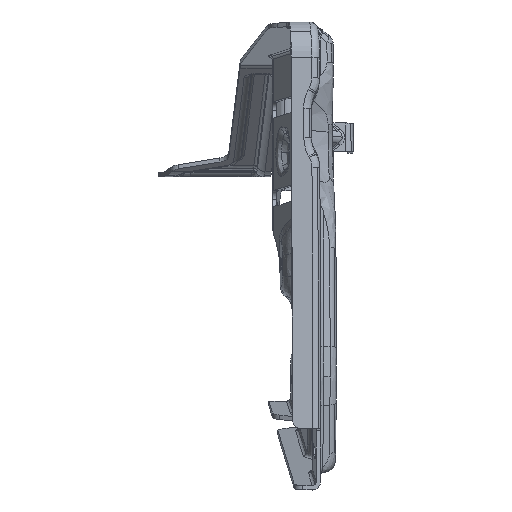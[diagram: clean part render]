
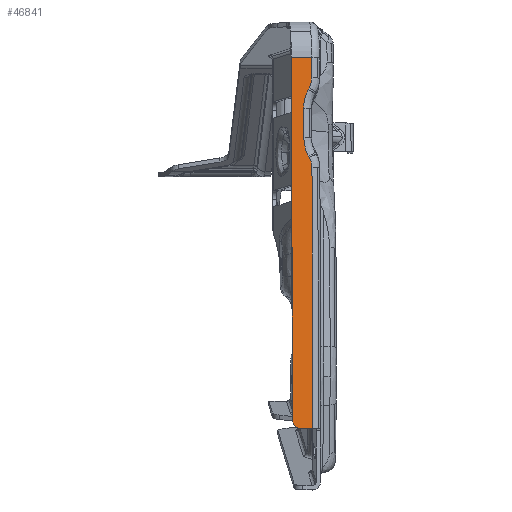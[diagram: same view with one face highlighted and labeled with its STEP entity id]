
A CAD part, top view. The second image highlights one B-rep face of the part: STEP entity #46841.
In plain terms, the highlighted planar face has unit normal (0.056, 0.07, 0.996).
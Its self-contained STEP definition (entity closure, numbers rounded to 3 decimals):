
#46737=AXIS2_PLACEMENT_3D('Plane Axis2P3D',#46734,#46735,#46736) ;
#43182=CARTESIAN_POINT('Vertex',(1606.133,709.849,1192.85)) ;
#43185=CARTESIAN_POINT('Line Origine',(1605.872,776.88,1188.17)) ;
#43189=CARTESIAN_POINT('Vertex',(1605.611,843.91,1183.49)) ;
#46716=CARTESIAN_POINT('Vertex',(1609.14,706.76,1192.899)) ;
#46720=CARTESIAN_POINT('Control Point',(1606.133,709.849,1192.85)) ;
#46721=CARTESIAN_POINT('Control Point',(1606.136,708.894,1192.917)) ;
#46722=CARTESIAN_POINT('Control Point',(1606.496,707.94,1192.964)) ;
#46723=CARTESIAN_POINT('Control Point',(1607.224,707.154,1192.978)) ;
#46724=CARTESIAN_POINT('Control Point',(1608.184,706.76,1192.952)) ;
#46725=CARTESIAN_POINT('Control Point',(1609.14,706.76,1192.899)) ;
#46734=CARTESIAN_POINT('Axis2P3D Location',(1616.539,857.876,1181.902)) ;
#46739=CARTESIAN_POINT('Line Origine',(1613.445,754.955,1189.283)) ;
#46743=CARTESIAN_POINT('Vertex',(1613.258,803.15,1185.918)) ;
#46745=CARTESIAN_POINT('Vertex',(1613.633,706.76,1192.648)) ;
#46749=CARTESIAN_POINT('Control Point',(1612.307,806.866,1185.711)) ;
#46750=CARTESIAN_POINT('Control Point',(1612.679,806.185,1185.738)) ;
#46751=CARTESIAN_POINT('Control Point',(1612.964,805.458,1185.773)) ;
#46752=CARTESIAN_POINT('Control Point',(1613.157,804.698,1185.816)) ;
#46753=CARTESIAN_POINT('Control Point',(1613.255,803.924,1185.864)) ;
#46754=CARTESIAN_POINT('Control Point',(1613.258,803.15,1185.918)) ;
#46755=CARTESIAN_POINT('Vertex',(1612.307,806.866,1185.711)) ;
#46758=CARTESIAN_POINT('Line Origine',(1612.146,807.161,1185.699)) ;
#46762=CARTESIAN_POINT('Vertex',(1611.984,807.456,1185.688)) ;
#46766=CARTESIAN_POINT('Control Point',(1611.984,807.456,1185.688)) ;
#46767=CARTESIAN_POINT('Control Point',(1611.293,808.719,1185.638)) ;
#46768=CARTESIAN_POINT('Control Point',(1610.764,810.071,1185.573)) ;
#46769=CARTESIAN_POINT('Control Point',(1610.406,811.481,1185.494)) ;
#46770=CARTESIAN_POINT('Control Point',(1610.224,812.919,1185.403)) ;
#46771=CARTESIAN_POINT('Control Point',(1610.218,814.356,1185.303)) ;
#46772=CARTESIAN_POINT('Vertex',(1610.218,814.356,1185.303)) ;
#46775=CARTESIAN_POINT('Line Origine',(1610.197,819.755,1184.926)) ;
#46779=CARTESIAN_POINT('Vertex',(1610.176,825.153,1184.549)) ;
#46783=CARTESIAN_POINT('Control Point',(1610.176,825.153,1184.549)) ;
#46784=CARTESIAN_POINT('Control Point',(1610.171,826.591,1184.449)) ;
#46785=CARTESIAN_POINT('Control Point',(1610.341,828.028,1184.339)) ;
#46786=CARTESIAN_POINT('Control Point',(1610.688,829.439,1184.22)) ;
#46787=CARTESIAN_POINT('Control Point',(1611.207,830.79,1184.097)) ;
#46788=CARTESIAN_POINT('Control Point',(1611.888,832.053,1183.97)) ;
#46789=CARTESIAN_POINT('Vertex',(1611.888,832.053,1183.97)) ;
#46792=CARTESIAN_POINT('Line Origine',(1612.048,832.348,1183.941)) ;
#46796=CARTESIAN_POINT('Vertex',(1612.207,832.644,1183.911)) ;
#46800=CARTESIAN_POINT('Control Point',(1613.129,836.359,1183.6)) ;
#46801=CARTESIAN_POINT('Control Point',(1613.132,835.585,1183.654)) ;
#46802=CARTESIAN_POINT('Control Point',(1613.04,834.811,1183.713)) ;
#46803=CARTESIAN_POINT('Control Point',(1612.853,834.052,1183.777)) ;
#46804=CARTESIAN_POINT('Control Point',(1612.573,833.324,1183.843)) ;
#46805=CARTESIAN_POINT('Control Point',(1612.207,832.644,1183.911)) ;
#46806=CARTESIAN_POINT('Vertex',(1613.129,836.359,1183.6)) ;
#46809=CARTESIAN_POINT('Line Origine',(1613.114,840.135,1183.336)) ;
#46813=CARTESIAN_POINT('Vertex',(1613.099,843.91,1183.072)) ;
#46816=CARTESIAN_POINT('Line Origine',(1609.355,843.91,1183.281)) ;
#46821=CARTESIAN_POINT('Line Origine',(1611.387,706.76,1192.774)) ;
#43186=DIRECTION('Vector Direction',(0.004,-0.998,0.07)) ;
#46735=DIRECTION('Axis2P3D Direction',(-0.056,-0.07,-0.996)) ;
#46736=DIRECTION('Axis2P3D XDirection',(0.004,-0.998,0.07)) ;
#46740=DIRECTION('Vector Direction',(0.004,-0.998,0.07)) ;
#46759=DIRECTION('Vector Direction',(-0.48,0.877,-0.035)) ;
#46776=DIRECTION('Vector Direction',(-0.004,0.998,-0.07)) ;
#46793=DIRECTION('Vector Direction',(0.473,0.877,-0.088)) ;
#46810=DIRECTION('Vector Direction',(-0.004,0.998,-0.07)) ;
#46817=DIRECTION('Vector Direction',(0.998,0.,-0.056)) ;
#46822=DIRECTION('Vector Direction',(-0.998,0.,0.056)) ;
#43187=VECTOR('Line Direction',#43186,1.) ;
#46741=VECTOR('Line Direction',#46740,1.) ;
#46760=VECTOR('Line Direction',#46759,1.) ;
#46777=VECTOR('Line Direction',#46776,1.) ;
#46794=VECTOR('Line Direction',#46793,1.) ;
#46811=VECTOR('Line Direction',#46810,1.) ;
#46818=VECTOR('Line Direction',#46817,1.) ;
#46823=VECTOR('Line Direction',#46822,1.) ;
#46827=ORIENTED_EDGE('',*,*,#46747,.F.) ;
#46828=ORIENTED_EDGE('',*,*,#46757,.F.) ;
#46829=ORIENTED_EDGE('',*,*,#46764,.T.) ;
#46830=ORIENTED_EDGE('',*,*,#46774,.T.) ;
#46831=ORIENTED_EDGE('',*,*,#46781,.T.) ;
#46832=ORIENTED_EDGE('',*,*,#46791,.T.) ;
#46833=ORIENTED_EDGE('',*,*,#46798,.T.) ;
#46834=ORIENTED_EDGE('',*,*,#46808,.F.) ;
#46835=ORIENTED_EDGE('',*,*,#46815,.T.) ;
#46836=ORIENTED_EDGE('',*,*,#46820,.T.) ;
#46837=ORIENTED_EDGE('',*,*,#43191,.T.) ;
#46838=ORIENTED_EDGE('',*,*,#46726,.T.) ;
#46839=ORIENTED_EDGE('',*,*,#46825,.F.) ;
#46841=ADVANCED_FACE('\X2\4E3B9A7E9A769AD8914D5EA76905976080CC603B6210\X0\\\H6\X2\9AD8914D976080CC9AA867B6603B6210\X0\\\\X2\51E04F554F53\X0\.107',(#46840),#46738,.F.) ;
#46719=B_SPLINE_CURVE_WITH_KNOTS('',5,(#46720,#46721,#46722,#46723,#46724,#46725),.UNSPECIFIED.,.F.,.U.,(6,6),(0.,6.954),.UNSPECIFIED.) ;
#46748=B_SPLINE_CURVE_WITH_KNOTS('',5,(#46749,#46750,#46751,#46752,#46753,#46754),.UNSPECIFIED.,.F.,.U.,(6,6),(0.,5.501),.UNSPECIFIED.) ;
#46765=B_SPLINE_CURVE_WITH_KNOTS('',5,(#46766,#46767,#46768,#46769,#46770,#46771),.UNSPECIFIED.,.F.,.U.,(6,6),(0.,10.217),.UNSPECIFIED.) ;
#46782=B_SPLINE_CURVE_WITH_KNOTS('',5,(#46783,#46784,#46785,#46786,#46787,#46788),.UNSPECIFIED.,.F.,.U.,(6,6),(0.,10.217),.UNSPECIFIED.) ;
#46799=B_SPLINE_CURVE_WITH_KNOTS('',5,(#46800,#46801,#46802,#46803,#46804,#46805),.UNSPECIFIED.,.F.,.U.,(6,6),(0.,5.501),.UNSPECIFIED.) ;
#43191=EDGE_CURVE('',#43190,#43183,#43188,.T.) ;
#46726=EDGE_CURVE('',#43183,#46717,#46719,.T.) ;
#46747=EDGE_CURVE('',#46744,#46746,#46742,.T.) ;
#46757=EDGE_CURVE('',#46756,#46744,#46748,.T.) ;
#46764=EDGE_CURVE('',#46756,#46763,#46761,.T.) ;
#46774=EDGE_CURVE('',#46763,#46773,#46765,.T.) ;
#46781=EDGE_CURVE('',#46773,#46780,#46778,.T.) ;
#46791=EDGE_CURVE('',#46780,#46790,#46782,.T.) ;
#46798=EDGE_CURVE('',#46790,#46797,#46795,.T.) ;
#46808=EDGE_CURVE('',#46807,#46797,#46799,.T.) ;
#46815=EDGE_CURVE('',#46807,#46814,#46812,.T.) ;
#46820=EDGE_CURVE('',#46814,#43190,#46819,.F.) ;
#46825=EDGE_CURVE('',#46746,#46717,#46824,.T.) ;
#46826=EDGE_LOOP('',(#46827,#46828,#46829,#46830,#46831,#46832,#46833,#46834,#46835,#46836,#46837,#46838,#46839)) ;
#46840=FACE_OUTER_BOUND('',#46826,.T.) ;
#43188=LINE('Line',#43185,#43187) ;
#46742=LINE('Line',#46739,#46741) ;
#46761=LINE('Line',#46758,#46760) ;
#46778=LINE('Line',#46775,#46777) ;
#46795=LINE('Line',#46792,#46794) ;
#46812=LINE('Line',#46809,#46811) ;
#46819=LINE('Line',#46816,#46818) ;
#46824=LINE('Line',#46821,#46823) ;
#46738=PLANE('Plane',#46737) ;
#43183=VERTEX_POINT('',#43182) ;
#43190=VERTEX_POINT('',#43189) ;
#46717=VERTEX_POINT('',#46716) ;
#46744=VERTEX_POINT('',#46743) ;
#46746=VERTEX_POINT('',#46745) ;
#46756=VERTEX_POINT('',#46755) ;
#46763=VERTEX_POINT('',#46762) ;
#46773=VERTEX_POINT('',#46772) ;
#46780=VERTEX_POINT('',#46779) ;
#46790=VERTEX_POINT('',#46789) ;
#46797=VERTEX_POINT('',#46796) ;
#46807=VERTEX_POINT('',#46806) ;
#46814=VERTEX_POINT('',#46813) ;
